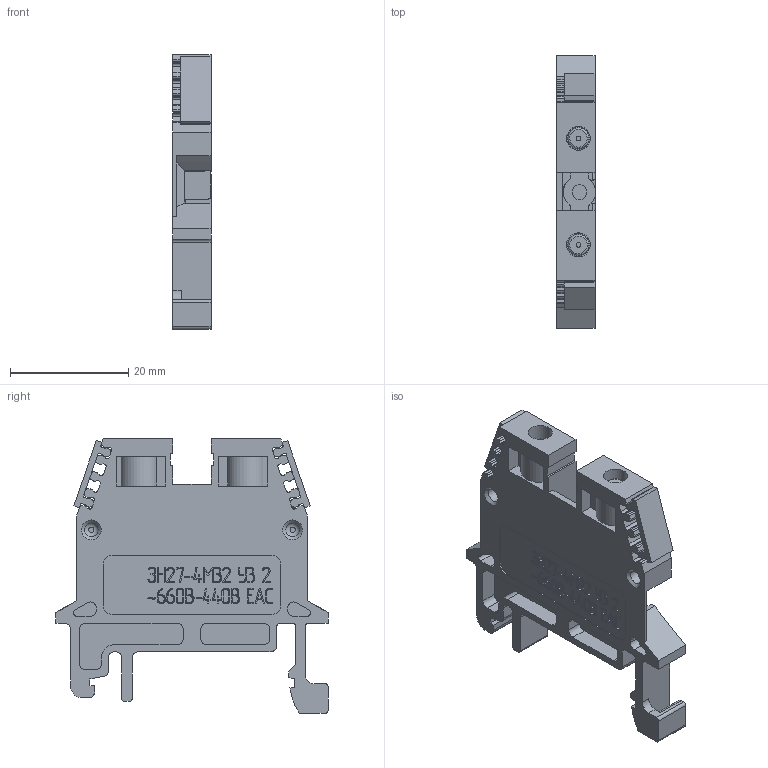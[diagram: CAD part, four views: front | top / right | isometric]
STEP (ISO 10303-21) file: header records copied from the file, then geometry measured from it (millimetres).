
FILE_DESCRIPTION(('STEP AP214'), '1');
FILE_NAME('ÇÍ27-4Ì32 (3D çàêàç÷èêàì)', '2022-12-26T11:51:09', (''), (''), 'ASCON STEP Converter 1.6', 'ASCON Math Kernel', '');
FILE_SCHEMA(('AUTOMOTIVE_DESIGN { 1 0 10303 214 3 1 1}'));
Length unit declared in the file: millimetre
Bounding box: 6.57 x 46 x 46.4 mm (x, y, z)
Volume: 5582.2 mm3; surface area: 8411 mm2
Topology: 2 solids, 2 shells, 1786 faces, 5127 edges, 3382 vertices
Faces by surface type: plane 977, cylinder 787, cone 14, torus 8
Full cylindrical faces by diameter (mm): 0.8 x2, 2.459 x2, 2.5 x1, 2.6 x2, 3 x2, 3.2 x2, 4.05 x2
Entity records: 72774 total; most frequent: CARTESIAN_POINT 10375, DIRECTION 10184, ORIENTED_EDGE 10168, EDGE_CURVE 5084, LINE 3474, VECTOR 3474, VERTEX_POINT 3378, AXIS2_PLACEMENT_3D 3355
